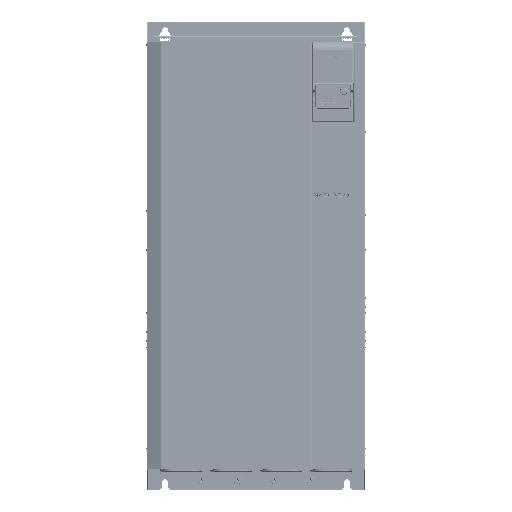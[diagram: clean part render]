
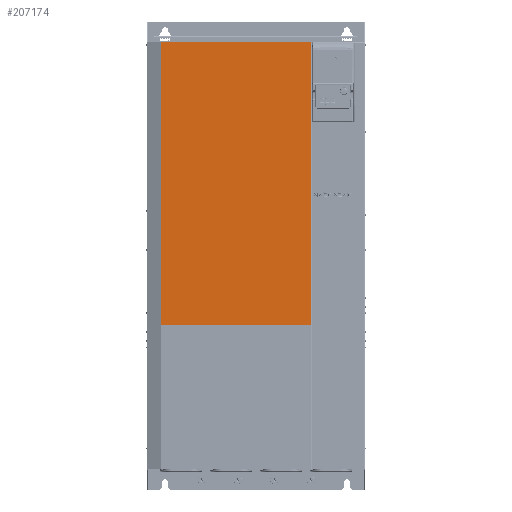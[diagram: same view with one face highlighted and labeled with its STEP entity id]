
A CAD part, top view. The second image highlights one B-rep face of the part: STEP entity #207174.
In plain terms, the highlighted planar face has unit normal (0, 0, 1) as drawn and (0, 1, 0) by its records, which use the part's own axes.
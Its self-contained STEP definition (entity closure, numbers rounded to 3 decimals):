
#205416=DIRECTION('',(0.,0.,-1.));
#205417=VECTOR('',#205416,621.2);
#205418=CARTESIAN_POINT('',(-2.,0.,310.85));
#205419=LINE('',#205418,#205417);
#205521=DIRECTION('',(-1.,0.,0.));
#205522=VECTOR('',#205521,329.872);
#205523=CARTESIAN_POINT('',(-2.,0.,-310.35));
#205524=LINE('',#205523,#205522);
#205535=DIRECTION('',(-1.,0.,0.));
#205536=VECTOR('',#205535,329.872);
#205537=CARTESIAN_POINT('',(-2.,0.,310.85));
#205538=LINE('',#205537,#205536);
#205579=DIRECTION('',(0.,0.,1.));
#205580=VECTOR('',#205579,621.2);
#205581=CARTESIAN_POINT('',(-331.872,0.,-310.35));
#205582=LINE('',#205581,#205580);
#206637=CARTESIAN_POINT('',(-2.,0.,310.85));
#206638=VERTEX_POINT('',#206637);
#206639=CARTESIAN_POINT('',(-2.,0.,-310.35));
#206640=VERTEX_POINT('',#206639);
#206651=CARTESIAN_POINT('',(-331.872,0.,-310.35));
#206652=VERTEX_POINT('',#206651);
#206655=CARTESIAN_POINT('',(-331.872,0.,310.85));
#206656=VERTEX_POINT('',#206655);
#207161=CARTESIAN_POINT('',(0.,0.,0.));
#207162=DIRECTION('',(0.,1.,0.));
#207163=DIRECTION('',(1.,0.,0.));
#207164=AXIS2_PLACEMENT_3D('',#207161,#207162,#207163);
#207165=PLANE('',#207164);
#207166=ORIENTED_EDGE('',*,*,#207055,.F.);
#207168=ORIENTED_EDGE('',*,*,#207167,.T.);
#207170=ORIENTED_EDGE('',*,*,#207169,.F.);
#207171=ORIENTED_EDGE('',*,*,#207151,.F.);
#207172=EDGE_LOOP('',(#207166,#207168,#207170,#207171));
#207173=FACE_OUTER_BOUND('',#207172,.F.);
#207174=ADVANCED_FACE('',(#207173),#207165,.T.);
#207055=EDGE_CURVE('',#206638,#206640,#205419,.T.);
#207151=EDGE_CURVE('',#206640,#206652,#205524,.T.);
#207167=EDGE_CURVE('',#206638,#206656,#205538,.T.);
#207169=EDGE_CURVE('',#206652,#206656,#205582,.T.);
